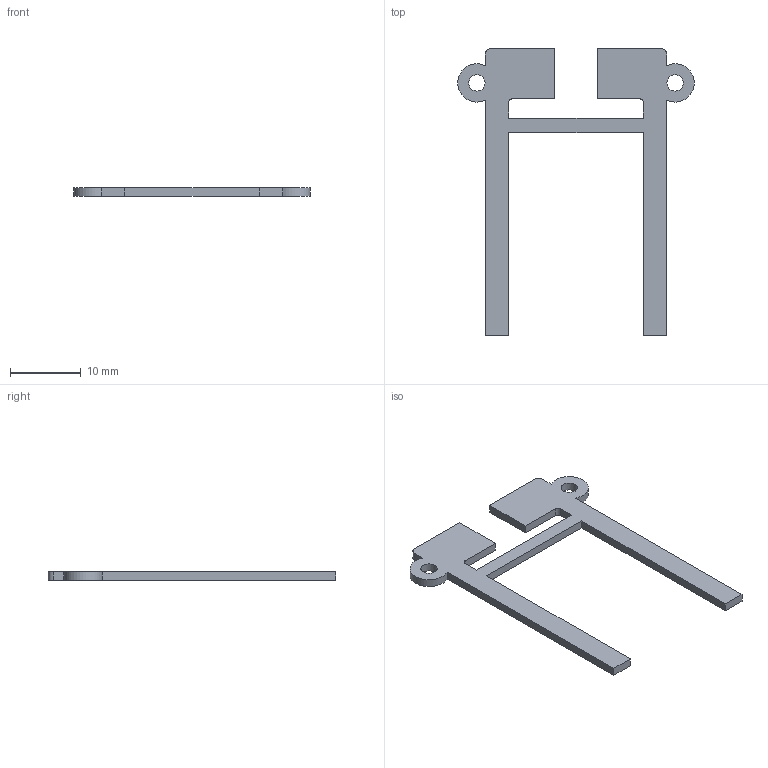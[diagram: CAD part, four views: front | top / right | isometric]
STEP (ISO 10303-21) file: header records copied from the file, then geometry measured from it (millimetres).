
FILE_DESCRIPTION(/* description */ (''),/* implementation_level */ '2;1');
FILE_NAME(/* name */ 'C27_R2_LTE_Upper_Service_Frame.step',/* time_stamp */ '2026-09-10T17:49:28-07:00',/* author */ (''),/* organization */ (''),/* preprocessor_version */ 'ST-DEVELOPER v20.1',/* originating_system */ 'Autodesk Translation Framework v15.8.0.0',/* authorisation */ '');
FILE_SCHEMA (('AUTOMOTIVE_DESIGN { 1 0 10303 214 3 1 1 }'));
Length unit declared in the file: millimetre
Products named in the file (1): 2026-09-10-17-49-28-750
Bounding box: 33.4 x 40.6 x 1.2 mm (x, y, z)
Volume: 511 mm3; surface area: 1165.1 mm2
Topology: 1 solids, 1 shells, 28 faces, 78 edges, 52 vertices
Faces by surface type: plane 20, cylinder 8
Full cylindrical faces by diameter (mm): 2.3 x2
Entity records: 939 total; most frequent: CARTESIAN_POINT 159, ORIENTED_EDGE 156, DIRECTION 152, EDGE_CURVE 78, LINE 62, VECTOR 62, VERTEX_POINT 52, AXIS2_PLACEMENT_3D 45
